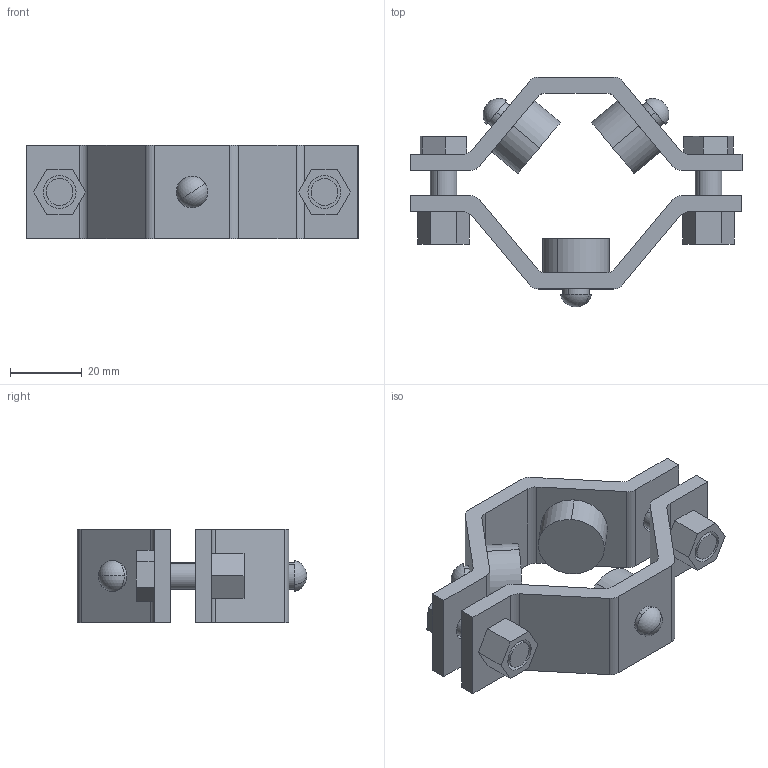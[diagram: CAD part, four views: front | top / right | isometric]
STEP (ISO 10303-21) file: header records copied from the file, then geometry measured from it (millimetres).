
FILE_DESCRIPTION (( 'STEP AP214' ), '1' );
FILE_NAME ('E24 1.0.STEP', '2025-07-16T18:13:16', ( '' ), ( '' ), 'SwSTEP 2.0', 'SolidWorks 2022', '' );
FILE_SCHEMA (( 'AUTOMOTIVE_DESIGN' ));
Length unit declared in the file: inch
Products named in the file (6): E24-2HOLE 1.0; E24-1HOLE 1.0; E24 1.0; E24GROMMET 1.0; E24NUT; E24BOLT
Assembly tree (9 placements, depth 2):
  E24 1.0
    E24-1HOLE 1.0
    E24-2HOLE 1.0
    E24BOLT  x2
    E24GROMMET 1.0  x3
    E24NUT  x2
Bounding box: 92.51 x 64.03 x 26.01 mm (x, y, z)
Volume: 38611.3 mm3; surface area: 21841.2 mm2
Topology: 9 solids, 9 shells, 133 faces, 318 edges, 213 vertices
Faces by surface type: plane 73, cylinder 54, sphere 6
Entity records: 3116 total; most frequent: DIRECTION 522, CARTESIAN_POINT 490, ORIENTED_EDGE 464, EDGE_CURVE 232, AXIS2_PLACEMENT_3D 187, VERTEX_POINT 155, LINE 148, VECTOR 148
